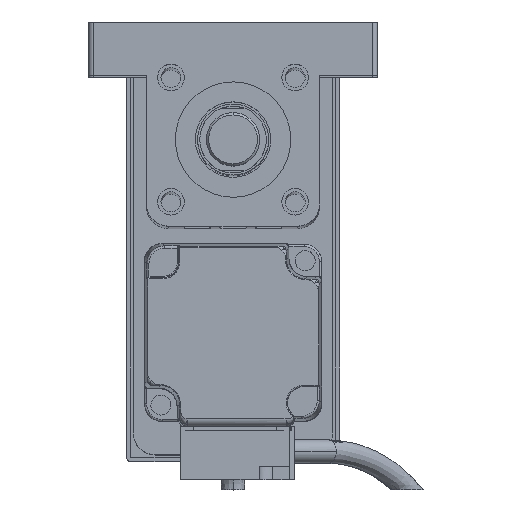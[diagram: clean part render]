
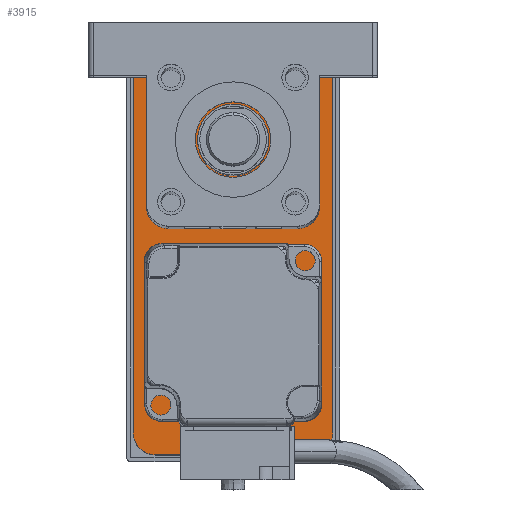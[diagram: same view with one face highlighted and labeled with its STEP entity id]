
A CAD part, top view. The second image highlights one B-rep face of the part: STEP entity #3915.
In plain terms, the highlighted planar face has unit normal (0, 0, 1).
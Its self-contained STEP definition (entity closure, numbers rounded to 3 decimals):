
#270 = AXIS2_PLACEMENT_3D ( 'NONE', #9113, #2908, #22666 ) ;
#590 = VERTEX_POINT ( 'NONE', #10030 ) ;
#732 = CARTESIAN_POINT ( 'NONE',  ( -17.5, 40., 10. ) ) ;
#1362 = AXIS2_PLACEMENT_3D ( 'NONE', #732, #2695, #5023 ) ;
#1859 = EDGE_CURVE ( 'NONE', #23370, #590, #15776, .T. ) ;
#2026 = LINE ( 'NONE', #11821, #17160 ) ;
#2305 = CARTESIAN_POINT ( 'NONE',  ( 22.5, -45., 10. ) ) ;
#2674 = CARTESIAN_POINT ( 'NONE',  ( 17.5, -40., 10. ) ) ;
#2695 = DIRECTION ( 'NONE',  ( 0., 0., 1. ) ) ;
#2705 = FACE_OUTER_BOUND ( 'NONE', #6776, .T. ) ;
#2865 = CARTESIAN_POINT ( 'NONE',  ( 17.5, 40., 10. ) ) ;
#2908 = DIRECTION ( 'NONE',  ( 0., 0., 1. ) ) ;
#2949 = DIRECTION ( 'NONE',  ( 0., 0., 1. ) ) ;
#3818 = EDGE_CURVE ( 'NONE', #7637, #18012, #15073, .T. ) ;
#3915 = ADVANCED_FACE ( 'NONE', ( #2705 ), #12797, .T. ) ;
#5023 = DIRECTION ( 'NONE',  ( 1., 0., 0. ) ) ;
#5131 = AXIS2_PLACEMENT_3D ( 'NONE', #14778, #2949, #19050 ) ;
#5230 = VERTEX_POINT ( 'NONE', #5760 ) ;
#5360 = EDGE_CURVE ( 'NONE', #14896, #19755, #16892, .T. ) ;
#5760 = CARTESIAN_POINT ( 'NONE',  ( -17.5, 45., 10. ) ) ;
#5946 = ORIENTED_EDGE ( 'NONE', *, *, #16351, .T. ) ;
#6067 = DIRECTION ( 'NONE',  ( 1., 0., 0. ) ) ;
#6370 = DIRECTION ( 'NONE',  ( 0., 1., 0. ) ) ;
#6733 = DIRECTION ( 'NONE',  ( 0., 0., 1. ) ) ;
#6776 = EDGE_LOOP ( 'NONE', ( #11425, #14712, #14279, #5946, #18485, #19843, #14502, #19443 ) ) ;
#7223 = EDGE_CURVE ( 'NONE', #590, #14896, #18064, .T. ) ;
#7478 = AXIS2_PLACEMENT_3D ( 'NONE', #2674, #8554, #10555 ) ;
#7564 = CARTESIAN_POINT ( 'NONE',  ( -22.5, 40., 10. ) ) ;
#7637 = VERTEX_POINT ( 'NONE', #8053 ) ;
#8053 = CARTESIAN_POINT ( 'NONE',  ( 22.5, 40., 10. ) ) ;
#8153 = VECTOR ( 'NONE', #6067, 1000. ) ;
#8554 = DIRECTION ( 'NONE',  ( 0., 0., 1. ) ) ;
#9113 = CARTESIAN_POINT ( 'NONE',  ( -17.5, -40., 10. ) ) ;
#10030 = CARTESIAN_POINT ( 'NONE',  ( -17.5, -45., 10. ) ) ;
#10555 = DIRECTION ( 'NONE',  ( 1., 0., 0. ) ) ;
#11010 = EDGE_CURVE ( 'NONE', #18012, #5230, #17948, .T. ) ;
#11272 = AXIS2_PLACEMENT_3D ( 'NONE', #2865, #6733, #22616 ) ;
#11425 = ORIENTED_EDGE ( 'NONE', *, *, #19531, .T. ) ;
#11821 = CARTESIAN_POINT ( 'NONE',  ( 22.5, -45., 10. ) ) ;
#11910 = CIRCLE ( 'NONE', #1362, 5. ) ;
#12797 = PLANE ( 'NONE',  #5131 ) ;
#13286 = DIRECTION ( 'NONE',  ( -1., 0., 0. ) ) ;
#14279 = ORIENTED_EDGE ( 'NONE', *, *, #11010, .T. ) ;
#14502 = ORIENTED_EDGE ( 'NONE', *, *, #7223, .T. ) ;
#14712 = ORIENTED_EDGE ( 'NONE', *, *, #3818, .T. ) ;
#14778 = CARTESIAN_POINT ( 'NONE',  ( 0., 0., 10. ) ) ;
#14896 = VERTEX_POINT ( 'NONE', #15191 ) ;
#15073 = CIRCLE ( 'NONE', #11272, 5. ) ;
#15191 = CARTESIAN_POINT ( 'NONE',  ( 17.5, -45., 10. ) ) ;
#15773 = CARTESIAN_POINT ( 'NONE',  ( 22.5, -40., 10. ) ) ;
#15776 = CIRCLE ( 'NONE', #270, 5. ) ;
#16351 = EDGE_CURVE ( 'NONE', #5230, #24499, #11910, .T. ) ;
#16495 = VECTOR ( 'NONE', #22243, 1000. ) ;
#16818 = CARTESIAN_POINT ( 'NONE',  ( -22.5, -40., 10. ) ) ;
#16892 = CIRCLE ( 'NONE', #7478, 5. ) ;
#17160 = VECTOR ( 'NONE', #6370, 1000. ) ;
#17948 = LINE ( 'NONE', #25018, #24846 ) ;
#18012 = VERTEX_POINT ( 'NONE', #20400 ) ;
#18064 = LINE ( 'NONE', #2305, #8153 ) ;
#18424 = CARTESIAN_POINT ( 'NONE',  ( -22.5, -45., 10. ) ) ;
#18485 = ORIENTED_EDGE ( 'NONE', *, *, #20364, .T. ) ;
#19050 = DIRECTION ( 'NONE',  ( 1., 0., 0. ) ) ;
#19443 = ORIENTED_EDGE ( 'NONE', *, *, #5360, .T. ) ;
#19531 = EDGE_CURVE ( 'NONE', #19755, #7637, #2026, .T. ) ;
#19755 = VERTEX_POINT ( 'NONE', #15773 ) ;
#19843 = ORIENTED_EDGE ( 'NONE', *, *, #1859, .T. ) ;
#20364 = EDGE_CURVE ( 'NONE', #24499, #23370, #21786, .T. ) ;
#20400 = CARTESIAN_POINT ( 'NONE',  ( 17.5, 45., 10. ) ) ;
#21786 = LINE ( 'NONE', #18424, #16495 ) ;
#22243 = DIRECTION ( 'NONE',  ( 0., -1., 0. ) ) ;
#22616 = DIRECTION ( 'NONE',  ( 1., 0., 0. ) ) ;
#22666 = DIRECTION ( 'NONE',  ( 1., 0., 0. ) ) ;
#23370 = VERTEX_POINT ( 'NONE', #16818 ) ;
#24499 = VERTEX_POINT ( 'NONE', #7564 ) ;
#24846 = VECTOR ( 'NONE', #13286, 1000. ) ;
#25018 = CARTESIAN_POINT ( 'NONE',  ( 22.5, 45., 10. ) ) ;
